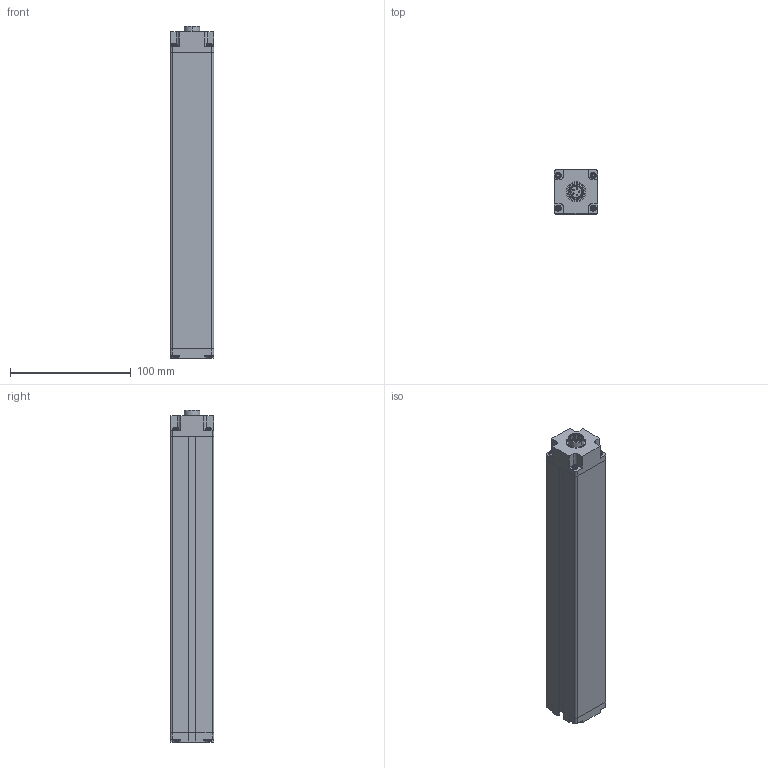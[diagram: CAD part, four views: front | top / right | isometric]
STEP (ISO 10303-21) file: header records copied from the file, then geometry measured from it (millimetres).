
FILE_DESCRIPTION((''),'2;1');
FILE_NAME('HNG-0640-LEFT_ASM','2020-04-07T',('Administrator'),(''),'PRO/ENGINEER BY PARAMETRIC TECHNOLOGY CORPORATION, 2010280','PRO/ENGINEER BY PARAMETRIC TECHNOLOGY CORPORATION, 2010280','');
FILE_SCHEMA(('AUTOMOTIVE_DESIGN { 1 2 10303 214 0 1 1 1 }'));
Length unit declared in the file: millimetre
Products named in the file (11): HNG0640-SHELL-LEFT; HNG-0640-PCB-LEFT; HNG-0640-LED-5MM; HNG-0640-WINDOWS; HNG-0640-COVER-TOP; HNG-0640-COVER-BOTTOM; HNG-0640-M13-5PIN; HNG-0640-M3-10; HNG-0640-ANXIE_LOGO; HNG-0640-TEXT-LEFT; HNG-0640-LEFT_ASM
Assembly tree (22 placements, depth 2):
  HNG-0640-LEFT_ASM
    HNG0640-SHELL-LEFT
    HNG-0640-PCB-LEFT
    HNG-0640-LED-5MM  x6
    HNG-0640-WINDOWS
    HNG-0640-COVER-TOP
    HNG-0640-COVER-BOTTOM
    HNG-0640-M13-5PIN
    HNG-0640-M3-10  x8
    HNG-0640-ANXIE_LOGO
    HNG-0640-TEXT-LEFT
Bounding box: 35.8 x 36.2 x 274.4 mm (x, y, z)
Volume: 135113.3 mm3; surface area: 123163.6 mm2
Topology: 50 solids, 50 shells, 1389 faces, 3658 edges, 2394 vertices
Faces by surface type: plane 785, cylinder 320, extrusion 144, bspline 74, torus 34, cone 20, sphere 12
Entity records: 38204 total; most frequent: CARTESIAN_POINT 8822, ORIENTED_EDGE 4680, DIRECTION 3843, PRESENTATION_STYLE_ASSIGNMENT 2378, STYLED_ITEM 2378, CURVE_STYLE 2340, EDGE_CURVE 2340, VECTOR 1919
